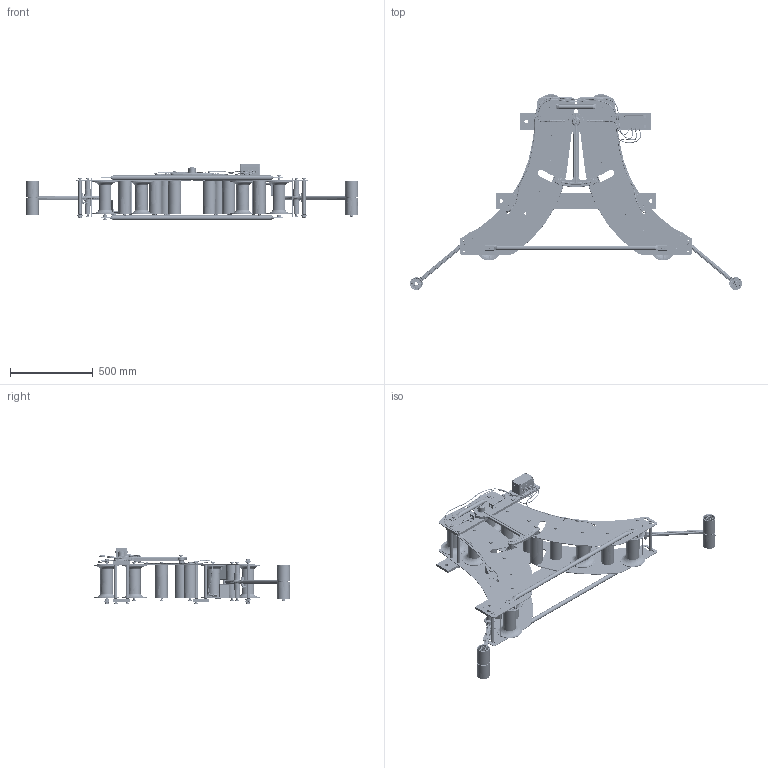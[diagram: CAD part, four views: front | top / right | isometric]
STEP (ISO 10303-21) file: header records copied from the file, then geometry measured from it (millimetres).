
FILE_DESCRIPTION(/* description */ (''),/* implementation_level */ '2;1');
FILE_NAME(/* name */ 'K:\MANDARIC\89591.stp',/* time_stamp */ '2017-12-01T12:30:27+01:00',/* author */ ('milman01'),/* organization */ ('Hillmar Industries Ltd.'),/* preprocessor_version */ 'ST-DEVELOPER v16.1',/* originating_system */ 'Autodesk Inventor 2016',/* authorisation */ '');
FILE_SCHEMA (('AUTOMOTIVE_DESIGN { 1 0 10303 214 3 1 1 }'));
Products named in the file (1): 89591
Bounding box: 2000.66 x 1179.91 x 340.9 mm (x, y, z)
Volume: 21077332.7 mm3; surface area: 7263664.1 mm2
Topology: 57 solids, 150 shells, 23547 faces, 59513 edges, 36208 vertices
Faces by surface type: bspline 9067, plane 7116, cylinder 3730, torus 2323, cone 1283, sphere 28
Full cylindrical faces by diameter (mm): 1 x8, 1.33 x4, 3 x6, 3.242 x30, 3.5 x10, 4 x12, 4.5 x8, 4.917 x4, 5 x4, 5.5 x14, 6 x2, 6.647 x4, 7 x4, 7.137 x3, 8 x20, 8.376 x4, 9 x24, 9.2 x2, 10 x6, 10.106 x20, 10.38 x2, 10.4 x2, 10.6 x4, 10.773 x4, 11.053 x26, 11.5 x4, 12 x56, 12.5 x4, 13 x68, 13.2 x2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
Entity records: 1003806 total; most frequent: CARTESIAN_POINT 490967, ORIENTED_EDGE 114092, DIRECTION 81092, EDGE_CURVE 56793, VERTEX_POINT 35255, AXIS2_PLACEMENT_3D 34707, EDGE_LOOP 26020, B_SPLINE_CURVE_WITH_KNOTS 24291
